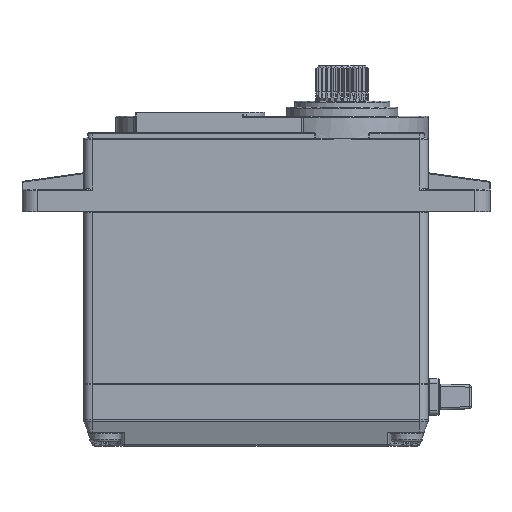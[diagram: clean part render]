
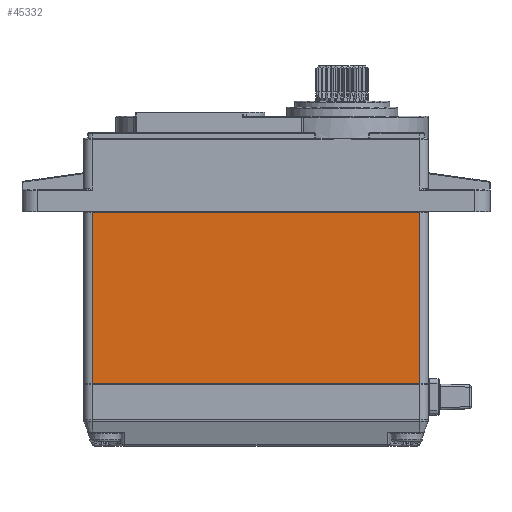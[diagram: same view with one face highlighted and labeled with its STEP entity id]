
A CAD part, left-side view. The second image highlights one B-rep face of the part: STEP entity #45332.
In plain terms, the highlighted planar face has unit normal (-1, 0, 0) as drawn and (0, -1, 0) by its records, which use the part's own axes.
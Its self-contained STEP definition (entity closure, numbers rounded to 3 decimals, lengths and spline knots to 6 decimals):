
#15767=ORIENTED_EDGE('',*,*,#22876,.F.);
#15768=ORIENTED_EDGE('',*,*,#22861,.F.);
#15769=ORIENTED_EDGE('',*,*,#22858,.T.);
#15770=ORIENTED_EDGE('',*,*,#22877,.T.);
#22858=EDGE_CURVE('',#27356,#27362,#31199,.T.);
#22861=EDGE_CURVE('',#27356,#27364,#31201,.T.);
#22876=EDGE_CURVE('',#27364,#27376,#31211,.T.);
#22877=EDGE_CURVE('',#27362,#27376,#31212,.T.);
#27356=VERTEX_POINT('',#94176);
#27362=VERTEX_POINT('',#94188);
#27364=VERTEX_POINT('',#94193);
#27376=VERTEX_POINT('',#94227);
#31199=LINE('',#94189,#34939);
#31201=LINE('',#94195,#34941);
#31211=LINE('',#94226,#34951);
#31212=LINE('',#94228,#34952);
#34939=VECTOR('',#65552,1.);
#34941=VECTOR('',#65558,1.);
#34951=VECTOR('',#65588,1.);
#34952=VECTOR('',#65589,1.);
#37675=EDGE_LOOP('',(#15767,#15768,#15769,#15770));
#40408=FACE_BOUND('',#37675,.T.);
#41903=PLANE('',#55559);
#45332=ADVANCED_FACE('',(#40408),#41903,.T.);
#55559=AXIS2_PLACEMENT_3D('',#94225,#65586,#65587);
#65552=DIRECTION('',(1.,0.,0.));
#65558=DIRECTION('',(0.,0.,1.));
#65586=DIRECTION('',(0.,-1.,0.));
#65587=DIRECTION('',(1.,0.,0.));
#65588=DIRECTION('',(1.,0.,0.));
#65589=DIRECTION('',(0.,0.,1.));
#94176=CARTESIAN_POINT('',(-0.019,-0.01,0.));
#94188=CARTESIAN_POINT('',(0.019,-0.01,0.));
#94189=CARTESIAN_POINT('',(-0.019,-0.01,0.));
#94193=CARTESIAN_POINT('',(-0.019,-0.01,0.0199));
#94195=CARTESIAN_POINT('',(-0.019,-0.01,0.));
#94225=CARTESIAN_POINT('',(-0.019,-0.01,0.));
#94226=CARTESIAN_POINT('',(-0.0095,-0.01,0.0199));
#94227=CARTESIAN_POINT('',(0.019,-0.01,0.0199));
#94228=CARTESIAN_POINT('',(0.019,-0.01,0.));
